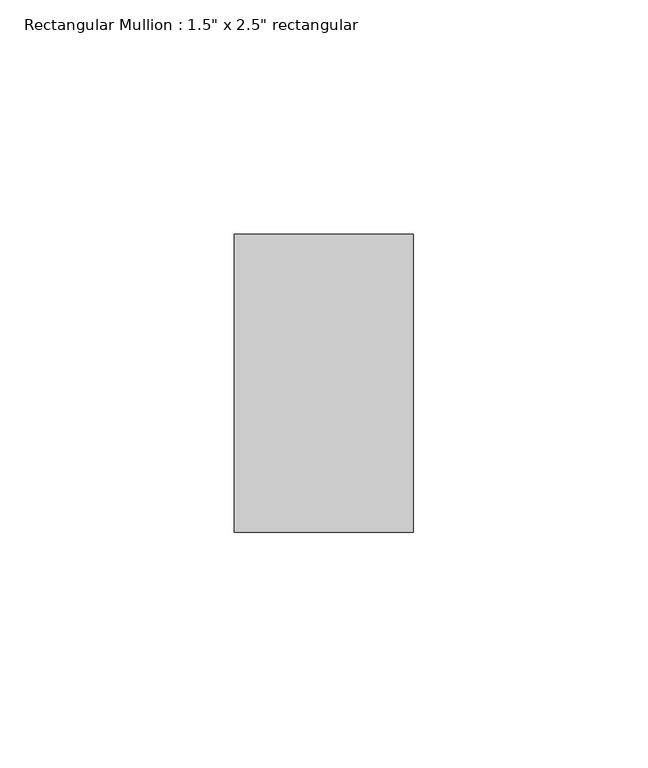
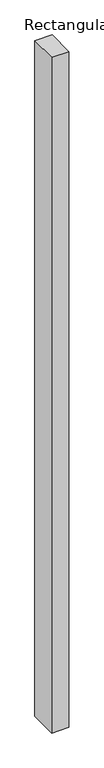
"""IFC4 building model written with IfcOpenShell, lengths in millimetres: member geometry."""

from ifc_helpers import new_model, si_unit, frame, origin, place, context, project, spatial, polyline, outline, extrude, source, transform, mapped, element, save


def member_17fda1fe(model_context):
    return source(origin(), model_context, "Body", "SweptSolid", [
        extrude(outline(polyline([(19.05, 31.75), (19.05, -31.75), (-19.05, -31.75), (-19.05, 31.75), (19.05, 31.75)])), frame((0.0, 0.0, -1568.45), z_axis=(0.0, 0.0, 1.0), x_axis=(1.0, 0.0, 0.0)), (0.0, 0.0, 1.0), 1568.45),
    ])


if __name__ == "__main__":
    model = new_model("IFC4")
    model_context = context("Model", 3, world=origin())
    ifc_project = project(units=[si_unit("LENGTHUNIT", "METRE", prefix="MILLI")], contexts=[model_context])
    site = spatial("IfcSite", under=ifc_project)
    building = spatial("IfcBuilding", under=site)
    placement = place(None, origin())
    member_shape = member_17fda1fe(model_context)
    element("IfcMember", 1, ObjectType="Rectangular Mullion : 1.5\" x 2.5\" rectangular", at=placement, inside=building, context=model_context, shape_type="MappedRepresentation", body=[
        mapped(member_shape, transform((0.0, 0.0, 0.0), x_axis=(1.0, 0.0, 0.0), y_axis=(0.0, 1.0, 0.0), z_axis=(0.0, 0.0, 1.0))),
    ])
    save(model, "model.ifc")
